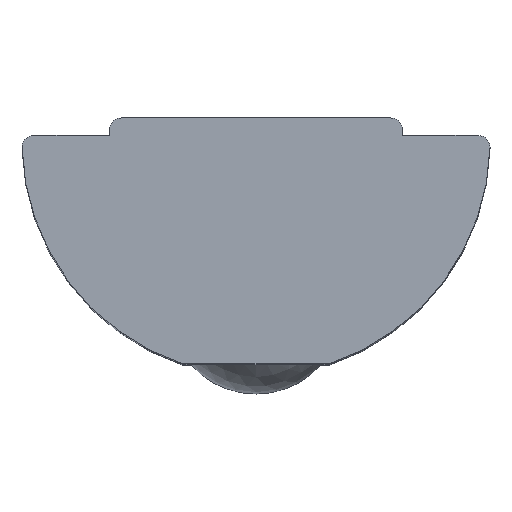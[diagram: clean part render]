
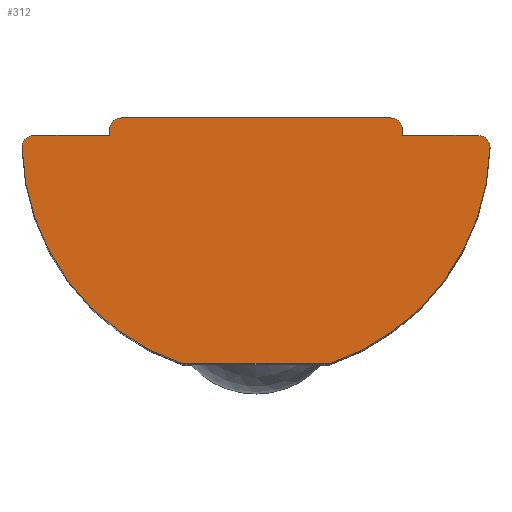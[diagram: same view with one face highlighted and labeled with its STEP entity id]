
A CAD part, top view. The second image highlights one B-rep face of the part: STEP entity #312.
In plain terms, the highlighted planar face has unit normal (0, 0, 1).
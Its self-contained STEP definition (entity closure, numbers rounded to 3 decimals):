
#11 = EDGE_CURVE ( 'NONE', #365, #457, #298, .T. ) ;
#12 = EDGE_CURVE ( 'NONE', #759, #344, #480, .T. ) ;
#14 = CARTESIAN_POINT ( 'NONE',  ( 3.999, 3.695, 6.9 ) ) ;
#18 = CARTESIAN_POINT ( 'NONE',  ( -3.999, 3.695, 6.9 ) ) ;
#24 = AXIS2_PLACEMENT_3D ( 'NONE', #243, #242, #241 ) ;
#34 = DIRECTION ( 'NONE',  ( 1., 0., 0. ) ) ;
#35 = DIRECTION ( 'NONE',  ( 0., 0., 1. ) ) ;
#40 = CARTESIAN_POINT ( 'NONE',  ( -2.3, 4., 6.9 ) ) ;
#55 = CARTESIAN_POINT ( 'NONE',  ( -2.5, 4., 6.9 ) ) ;
#57 = CARTESIAN_POINT ( 'NONE',  ( -3.999, 3.7, 6.9 ) ) ;
#63 = CARTESIAN_POINT ( 'NONE',  ( 2.5, 0., 6.9 ) ) ;
#66 = DIRECTION ( 'NONE',  ( 0., 1., 0. ) ) ;
#74 = DIRECTION ( 'NONE',  ( -1., 0., 0. ) ) ;
#75 = CARTESIAN_POINT ( 'NONE',  ( 0., 3.9, 6.9 ) ) ;
#80 = VERTEX_POINT ( 'NONE', #362 ) ;
#103 = VECTOR ( 'NONE', #66, 1000. ) ;
#104 = CIRCLE ( 'NONE', #691, 0.2 ) ;
#109 = LINE ( 'NONE', #63, #103 ) ;
#119 = AXIS2_PLACEMENT_3D ( 'NONE', #652, #651, #650 ) ;
#122 = LINE ( 'NONE', #75, #130 ) ;
#125 = DIRECTION ( 'NONE',  ( 1., 0., 0. ) ) ;
#126 = CIRCLE ( 'NONE', #702, 4. ) ;
#128 = VECTOR ( 'NONE', #204, 1000. ) ;
#130 = VECTOR ( 'NONE', #74, 1000. ) ;
#132 = DIRECTION ( 'NONE',  ( 0., 0., 1. ) ) ;
#133 = CARTESIAN_POINT ( 'NONE',  ( 0., 3.8, 6.9 ) ) ;
#142 = LINE ( 'NONE', #211, #128 ) ;
#151 = VECTOR ( 'NONE', #277, 1000. ) ;
#152 = LINE ( 'NONE', #282, #151 ) ;
#154 = CIRCLE ( 'NONE', #24, 4. ) ;
#160 = VECTOR ( 'NONE', #340, 1000. ) ;
#162 = LINE ( 'NONE', #368, #160 ) ;
#168 = DIRECTION ( 'NONE',  ( 1., 0., 0. ) ) ;
#169 = VECTOR ( 'NONE', #391, 1000. ) ;
#174 = LINE ( 'NONE', #369, #169 ) ;
#180 = EDGE_CURVE ( 'NONE', #363, #732, #295, .T. ) ;
#189 = DIRECTION ( 'NONE',  ( 0., 0., 1. ) ) ;
#197 = CARTESIAN_POINT ( 'NONE',  ( -3.799, 3.7, 6.9 ) ) ;
#204 = DIRECTION ( 'NONE',  ( 1., 0., 0. ) ) ;
#211 = CARTESIAN_POINT ( 'NONE',  ( 0., 0., 6.9 ) ) ;
#213 = AXIS2_PLACEMENT_3D ( 'NONE', #727, #724, #722 ) ;
#241 = DIRECTION ( 'NONE',  ( 1., 0., 0. ) ) ;
#242 = DIRECTION ( 'NONE',  ( 0., 0., 1. ) ) ;
#243 = CARTESIAN_POINT ( 'NONE',  ( 0., 3.8, 6.9 ) ) ;
#250 = CIRCLE ( 'NONE', #119, 0.2 ) ;
#273 = FACE_OUTER_BOUND ( 'NONE', #451, .T. ) ;
#277 = DIRECTION ( 'NONE',  ( 1., 0., 0. ) ) ;
#282 = CARTESIAN_POINT ( 'NONE',  ( 0., 3.9, 6.9 ) ) ;
#287 = CARTESIAN_POINT ( 'NONE',  ( 2.3, 4., 6.9 ) ) ;
#295 = CIRCLE ( 'NONE', #300, 0.2 ) ;
#298 = CIRCLE ( 'NONE', #338, 0.2 ) ;
#300 = AXIS2_PLACEMENT_3D ( 'NONE', #197, #189, #168 ) ;
#304 = VERTEX_POINT ( 'NONE', #729 ) ;
#307 = ORIENTED_EDGE ( 'NONE', *, *, #556, .F. ) ;
#308 = ORIENTED_EDGE ( 'NONE', *, *, #710, .T. ) ;
#312 = ADVANCED_FACE ( 'NONE', ( #273 ), #734, .T. ) ;
#313 = ORIENTED_EDGE ( 'NONE', *, *, #611, .F. ) ;
#314 = DIRECTION ( 'NONE',  ( 1., 0., 0. ) ) ;
#317 = ORIENTED_EDGE ( 'NONE', *, *, #180, .T. ) ;
#321 = ORIENTED_EDGE ( 'NONE', *, *, #382, .T. ) ;
#323 = ORIENTED_EDGE ( 'NONE', *, *, #618, .T. ) ;
#324 = ORIENTED_EDGE ( 'NONE', *, *, #642, .T. ) ;
#326 = DIRECTION ( 'NONE',  ( 0., 0., 1. ) ) ;
#327 = AXIS2_PLACEMENT_3D ( 'NONE', #343, #326, #314 ) ;
#331 = ORIENTED_EDGE ( 'NONE', *, *, #660, .T. ) ;
#335 = ORIENTED_EDGE ( 'NONE', *, *, #12, .T. ) ;
#337 = ORIENTED_EDGE ( 'NONE', *, *, #677, .T. ) ;
#338 = AXIS2_PLACEMENT_3D ( 'NONE', #287, #434, #354 ) ;
#339 = ORIENTED_EDGE ( 'NONE', *, *, #709, .T. ) ;
#340 = DIRECTION ( 'NONE',  ( 0., 1., 0. ) ) ;
#343 = CARTESIAN_POINT ( 'NONE',  ( 3.799, 3.7, 6.9 ) ) ;
#344 = VERTEX_POINT ( 'NONE', #704 ) ;
#347 = ORIENTED_EDGE ( 'NONE', *, *, #11, .T. ) ;
#354 = DIRECTION ( 'NONE',  ( 1., 0., 0. ) ) ;
#358 = VERTEX_POINT ( 'NONE', #674 ) ;
#359 = CARTESIAN_POINT ( 'NONE',  ( -1.25, 0., 6.9 ) ) ;
#362 = CARTESIAN_POINT ( 'NONE',  ( -2.5, 3.9, 6.9 ) ) ;
#363 = VERTEX_POINT ( 'NONE', #684 ) ;
#365 = VERTEX_POINT ( 'NONE', #676 ) ;
#368 = CARTESIAN_POINT ( 'NONE',  ( -2.5, 0., 6.9 ) ) ;
#369 = CARTESIAN_POINT ( 'NONE',  ( 0., 4.2, 6.9 ) ) ;
#382 = EDGE_CURVE ( 'NONE', #732, #738, #250, .T. ) ;
#391 = DIRECTION ( 'NONE',  ( -1., 0., 0. ) ) ;
#434 = DIRECTION ( 'NONE',  ( 0., 0., 1. ) ) ;
#451 = EDGE_LOOP ( 'NONE', ( #656, #308, #307, #313, #317, #321, #323, #324, #331, #335, #337, #339, #347 ) ) ;
#457 = VERTEX_POINT ( 'NONE', #503 ) ;
#476 = VERTEX_POINT ( 'NONE', #488 ) ;
#480 = CIRCLE ( 'NONE', #327, 0.2 ) ;
#488 = CARTESIAN_POINT ( 'NONE',  ( 2.5, 3.9, 6.9 ) ) ;
#503 = CARTESIAN_POINT ( 'NONE',  ( 2.3, 4.2, 6.9 ) ) ;
#545 = EDGE_CURVE ( 'NONE', #457, #358, #174, .T. ) ;
#556 = EDGE_CURVE ( 'NONE', #80, #711, #162, .T. ) ;
#560 = VERTEX_POINT ( 'NONE', #359 ) ;
#611 = EDGE_CURVE ( 'NONE', #363, #80, #152, .T. ) ;
#618 = EDGE_CURVE ( 'NONE', #738, #560, #154, .T. ) ;
#642 = EDGE_CURVE ( 'NONE', #560, #304, #142, .T. ) ;
#650 = DIRECTION ( 'NONE',  ( 1., 0., 0. ) ) ;
#651 = DIRECTION ( 'NONE',  ( 0., 0., 1. ) ) ;
#652 = CARTESIAN_POINT ( 'NONE',  ( -3.799, 3.7, 6.9 ) ) ;
#656 = ORIENTED_EDGE ( 'NONE', *, *, #545, .T. ) ;
#660 = EDGE_CURVE ( 'NONE', #304, #759, #126, .T. ) ;
#674 = CARTESIAN_POINT ( 'NONE',  ( -2.3, 4.2, 6.9 ) ) ;
#676 = CARTESIAN_POINT ( 'NONE',  ( 2.5, 4., 6.9 ) ) ;
#677 = EDGE_CURVE ( 'NONE', #344, #476, #122, .T. ) ;
#684 = CARTESIAN_POINT ( 'NONE',  ( -3.799, 3.9, 6.9 ) ) ;
#691 = AXIS2_PLACEMENT_3D ( 'NONE', #40, #35, #34 ) ;
#702 = AXIS2_PLACEMENT_3D ( 'NONE', #133, #132, #125 ) ;
#704 = CARTESIAN_POINT ( 'NONE',  ( 3.799, 3.9, 6.9 ) ) ;
#709 = EDGE_CURVE ( 'NONE', #476, #365, #109, .T. ) ;
#710 = EDGE_CURVE ( 'NONE', #358, #711, #104, .T. ) ;
#711 = VERTEX_POINT ( 'NONE', #55 ) ;
#722 = DIRECTION ( 'NONE',  ( 1., 0., 0. ) ) ;
#724 = DIRECTION ( 'NONE',  ( 0., 0., 1. ) ) ;
#727 = CARTESIAN_POINT ( 'NONE',  ( 0., 0., 6.9 ) ) ;
#729 = CARTESIAN_POINT ( 'NONE',  ( 1.25, 0., 6.9 ) ) ;
#732 = VERTEX_POINT ( 'NONE', #57 ) ;
#734 = PLANE ( 'NONE',  #213 ) ;
#738 = VERTEX_POINT ( 'NONE', #18 ) ;
#759 = VERTEX_POINT ( 'NONE', #14 ) ;
